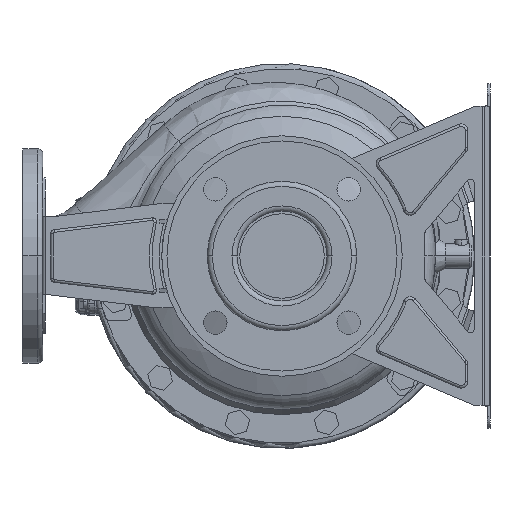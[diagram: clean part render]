
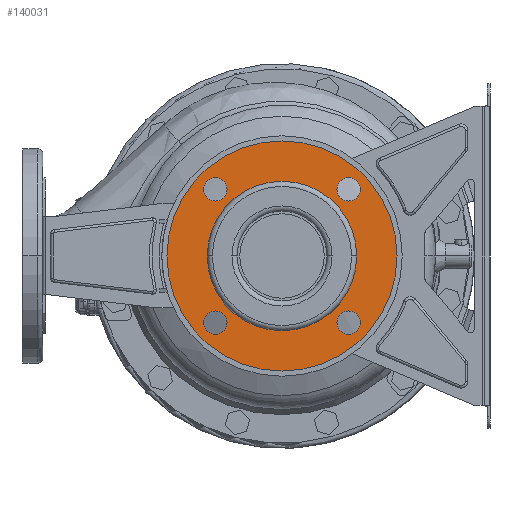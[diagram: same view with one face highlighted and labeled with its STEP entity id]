
A CAD part, front view. The second image highlights one B-rep face of the part: STEP entity #140031.
In plain terms, the highlighted planar face has unit normal (0, -1, 0).
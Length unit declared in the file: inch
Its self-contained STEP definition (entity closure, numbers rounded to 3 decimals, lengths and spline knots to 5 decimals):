
#1571 = DIRECTION ( 'NONE',  ( 0., 1., 0. ) ) ;
#3940 = CARTESIAN_POINT ( 'NONE',  ( 3.48425, -9.05512, 0. ) ) ;
#6415 = ORIENTED_EDGE ( 'NONE', *, *, #65525, .T. ) ;
#7738 = CIRCLE ( 'NONE', #57577, 0.35433 ) ;
#12511 = DIRECTION ( 'NONE',  ( 1., 0., 0. ) ) ;
#14890 = ORIENTED_EDGE ( 'NONE', *, *, #71992, .T. ) ;
#15848 = VERTEX_POINT ( 'NONE', #28212 ) ;
#16236 = EDGE_CURVE ( 'NONE', #102225, #69286, #47588, .T. ) ;
#16994 = VERTEX_POINT ( 'NONE', #136836 ) ;
#17434 = CIRCLE ( 'NONE', #104471, 0.35433 ) ;
#17617 = ORIENTED_EDGE ( 'NONE', *, *, #48738, .T. ) ;
#19579 = DIRECTION ( 'NONE',  ( 0., -1., 0. ) ) ;
#20277 = EDGE_CURVE ( 'NONE', #78612, #74075, #130408, .T. ) ;
#21103 = CARTESIAN_POINT ( 'NONE',  ( 0., -9.05512, 0. ) ) ;
#21264 = FACE_BOUND ( 'NONE', #121678, .T. ) ;
#23768 = VERTEX_POINT ( 'NONE', #111940 ) ;
#26355 = CARTESIAN_POINT ( 'NONE',  ( 2.37265, -9.05512, 2.01832 ) ) ;
#28089 = DIRECTION ( 'NONE',  ( 0., 0., 1. ) ) ;
#28212 = CARTESIAN_POINT ( 'NONE',  ( 2.01832, -9.05512, -1.66399 ) ) ;
#28842 = ORIENTED_EDGE ( 'NONE', *, *, #20277, .F. ) ;
#29175 = CARTESIAN_POINT ( 'NONE',  ( -2.01832, -9.05512, -2.01832 ) ) ;
#29742 = CIRCLE ( 'NONE', #116820, 0.35433 ) ;
#30171 = EDGE_LOOP ( 'NONE', ( #28842, #121653 ) ) ;
#30654 = FACE_BOUND ( 'NONE', #135148, .T. ) ;
#30921 = VERTEX_POINT ( 'NONE', #37983 ) ;
#31042 = VERTEX_POINT ( 'NONE', #62918 ) ;
#36456 = CARTESIAN_POINT ( 'NONE',  ( -2.26378, -9.05512, 0. ) ) ;
#37970 = AXIS2_PLACEMENT_3D ( 'NONE', #113469, #54289, #101788 ) ;
#37983 = CARTESIAN_POINT ( 'NONE',  ( -2.37265, -9.05512, -2.01832 ) ) ;
#38405 = DIRECTION ( 'NONE',  ( 0., 1., 0. ) ) ;
#40224 = EDGE_CURVE ( 'NONE', #23768, #15848, #29742, .T. ) ;
#42479 = VERTEX_POINT ( 'NONE', #65940 ) ;
#42940 = CARTESIAN_POINT ( 'NONE',  ( 0., -9.05512, 0. ) ) ;
#46508 = DIRECTION ( 'NONE',  ( 0., 0., 1. ) ) ;
#47539 = DIRECTION ( 'NONE',  ( 0., 1., 0. ) ) ;
#47588 = CIRCLE ( 'NONE', #134677, 2.26378 ) ;
#48535 = DIRECTION ( 'NONE',  ( 1., 0., 0. ) ) ;
#48738 = EDGE_CURVE ( 'NONE', #16994, #102024, #119741, .T. ) ;
#52606 = AXIS2_PLACEMENT_3D ( 'NONE', #71419, #83112, #46508 ) ;
#54015 = CIRCLE ( 'NONE', #143518, 0.35433 ) ;
#54289 = DIRECTION ( 'NONE',  ( 0., 1., 0. ) ) ;
#55468 = ORIENTED_EDGE ( 'NONE', *, *, #16236, .T. ) ;
#55595 = CIRCLE ( 'NONE', #137639, 0.35433 ) ;
#57577 = AXIS2_PLACEMENT_3D ( 'NONE', #29175, #138969, #77454 ) ;
#58127 = CARTESIAN_POINT ( 'NONE',  ( 2.01832, -9.05512, -2.01832 ) ) ;
#60995 = ORIENTED_EDGE ( 'NONE', *, *, #107058, .T. ) ;
#62791 = CARTESIAN_POINT ( 'NONE',  ( -2.01832, -9.05512, 1.66399 ) ) ;
#62918 = CARTESIAN_POINT ( 'NONE',  ( -1.66399, -9.05512, -2.01832 ) ) ;
#63293 = AXIS2_PLACEMENT_3D ( 'NONE', #84689, #131416, #143912 ) ;
#63723 = CARTESIAN_POINT ( 'NONE',  ( 0., -9.05512, 0. ) ) ;
#63900 = EDGE_CURVE ( 'NONE', #138266, #42479, #103838, .T. ) ;
#64394 = CARTESIAN_POINT ( 'NONE',  ( 2.26378, -9.05512, 0. ) ) ;
#65525 = EDGE_CURVE ( 'NONE', #15848, #23768, #54015, .T. ) ;
#65940 = CARTESIAN_POINT ( 'NONE',  ( 1.66399, -9.05512, 2.01832 ) ) ;
#66476 = FACE_BOUND ( 'NONE', #140317, .T. ) ;
#67255 = FACE_BOUND ( 'NONE', #75242, .T. ) ;
#69286 = VERTEX_POINT ( 'NONE', #64394 ) ;
#70093 = EDGE_CURVE ( 'NONE', #102024, #16994, #17434, .T. ) ;
#71332 = DIRECTION ( 'NONE',  ( 0., 1., 0. ) ) ;
#71419 = CARTESIAN_POINT ( 'NONE',  ( -2.01832, -9.05512, 2.01832 ) ) ;
#71762 = EDGE_CURVE ( 'NONE', #78612, #74075, #114710, .T. ) ;
#71992 = EDGE_CURVE ( 'NONE', #30921, #31042, #7738, .T. ) ;
#73043 = ORIENTED_EDGE ( 'NONE', *, *, #63900, .T. ) ;
#74075 = VERTEX_POINT ( 'NONE', #3940 ) ;
#75242 = EDGE_LOOP ( 'NONE', ( #142082, #6415 ) ) ;
#77454 = DIRECTION ( 'NONE',  ( -1., 0., 0. ) ) ;
#77854 = AXIS2_PLACEMENT_3D ( 'NONE', #63723, #94330, #141101 ) ;
#78612 = VERTEX_POINT ( 'NONE', #109547 ) ;
#80252 = CIRCLE ( 'NONE', #37970, 0.35433 ) ;
#82373 = AXIS2_PLACEMENT_3D ( 'NONE', #42940, #19579, #111543 ) ;
#83112 = DIRECTION ( 'NONE',  ( 0., 1., 0. ) ) ;
#83391 = AXIS2_PLACEMENT_3D ( 'NONE', #138904, #124896, #148290 ) ;
#84689 = CARTESIAN_POINT ( 'NONE',  ( 0., -9.05512, 0. ) ) ;
#88026 = EDGE_LOOP ( 'NONE', ( #14890, #142349 ) ) ;
#88107 = EDGE_CURVE ( 'NONE', #31042, #30921, #55595, .T. ) ;
#92122 = FACE_OUTER_BOUND ( 'NONE', #30171, .T. ) ;
#94330 = DIRECTION ( 'NONE',  ( 0., -1., 0. ) ) ;
#94682 = DIRECTION ( 'NONE',  ( 0., 0., -1. ) ) ;
#95826 = CARTESIAN_POINT ( 'NONE',  ( -2.01832, -9.05512, -2.01832 ) ) ;
#100759 = PLANE ( 'NONE',  #83391 ) ;
#101788 = DIRECTION ( 'NONE',  ( -1., 0., 0. ) ) ;
#102024 = VERTEX_POINT ( 'NONE', #62791 ) ;
#102225 = VERTEX_POINT ( 'NONE', #36456 ) ;
#103838 = CIRCLE ( 'NONE', #108721, 0.35433 ) ;
#104471 = AXIS2_PLACEMENT_3D ( 'NONE', #119214, #128576, #105226 ) ;
#105226 = DIRECTION ( 'NONE',  ( 0., 0., -1. ) ) ;
#105680 = ORIENTED_EDGE ( 'NONE', *, *, #133757, .F. ) ;
#107058 = EDGE_CURVE ( 'NONE', #42479, #138266, #80252, .T. ) ;
#108721 = AXIS2_PLACEMENT_3D ( 'NONE', #145132, #38405, #48535 ) ;
#109547 = CARTESIAN_POINT ( 'NONE',  ( -3.48425, -9.05512, 0. ) ) ;
#111543 = DIRECTION ( 'NONE',  ( -1., 0., 0. ) ) ;
#111940 = CARTESIAN_POINT ( 'NONE',  ( 2.01832, -9.05512, -2.37265 ) ) ;
#112657 = CIRCLE ( 'NONE', #77854, 2.26378 ) ;
#113469 = CARTESIAN_POINT ( 'NONE',  ( 2.01832, -9.05512, 2.01832 ) ) ;
#113982 = FACE_BOUND ( 'NONE', #88026, .T. ) ;
#114710 = CIRCLE ( 'NONE', #82373, 3.48425 ) ;
#116820 = AXIS2_PLACEMENT_3D ( 'NONE', #58127, #71332, #94682 ) ;
#119214 = CARTESIAN_POINT ( 'NONE',  ( -2.01832, -9.05512, 2.01832 ) ) ;
#119741 = CIRCLE ( 'NONE', #52606, 0.35433 ) ;
#121653 = ORIENTED_EDGE ( 'NONE', *, *, #71762, .T. ) ;
#121678 = EDGE_LOOP ( 'NONE', ( #17617, #140449 ) ) ;
#124896 = DIRECTION ( 'NONE',  ( 0., 1., 0. ) ) ;
#128576 = DIRECTION ( 'NONE',  ( 0., 1., 0. ) ) ;
#130408 = CIRCLE ( 'NONE', #63293, 3.48425 ) ;
#131416 = DIRECTION ( 'NONE',  ( 0., 1., 0. ) ) ;
#133757 = EDGE_CURVE ( 'NONE', #102225, #69286, #112657, .T. ) ;
#134677 = AXIS2_PLACEMENT_3D ( 'NONE', #21103, #47539, #142578 ) ;
#135148 = EDGE_LOOP ( 'NONE', ( #73043, #60995 ) ) ;
#136313 = CARTESIAN_POINT ( 'NONE',  ( 2.01832, -9.05512, -2.01832 ) ) ;
#136836 = CARTESIAN_POINT ( 'NONE',  ( -2.01832, -9.05512, 2.37265 ) ) ;
#137639 = AXIS2_PLACEMENT_3D ( 'NONE', #95826, #1571, #12511 ) ;
#138266 = VERTEX_POINT ( 'NONE', #26355 ) ;
#138904 = CARTESIAN_POINT ( 'NONE',  ( 0., -9.05512, 0. ) ) ;
#138969 = DIRECTION ( 'NONE',  ( 0., 1., 0. ) ) ;
#140031 = ADVANCED_FACE ( 'NONE', ( #92122, #66476, #30654, #67255, #113982, #21264 ), #100759, .F. ) ;
#140317 = EDGE_LOOP ( 'NONE', ( #105680, #55468 ) ) ;
#140449 = ORIENTED_EDGE ( 'NONE', *, *, #70093, .T. ) ;
#141101 = DIRECTION ( 'NONE',  ( -1., 0., 0. ) ) ;
#142082 = ORIENTED_EDGE ( 'NONE', *, *, #40224, .T. ) ;
#142349 = ORIENTED_EDGE ( 'NONE', *, *, #88107, .T. ) ;
#142578 = DIRECTION ( 'NONE',  ( -1., 0., 0. ) ) ;
#143518 = AXIS2_PLACEMENT_3D ( 'NONE', #136313, #147262, #28089 ) ;
#143912 = DIRECTION ( 'NONE',  ( -1., 0., 0. ) ) ;
#145132 = CARTESIAN_POINT ( 'NONE',  ( 2.01832, -9.05512, 2.01832 ) ) ;
#147262 = DIRECTION ( 'NONE',  ( 0., 1., 0. ) ) ;
#148290 = DIRECTION ( 'NONE',  ( -1., 0., 0. ) ) ;
